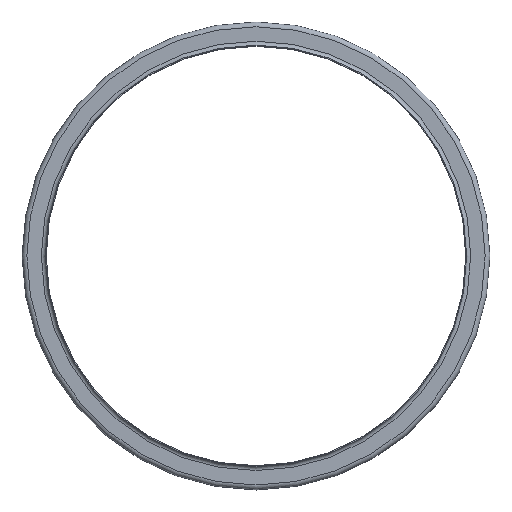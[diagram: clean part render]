
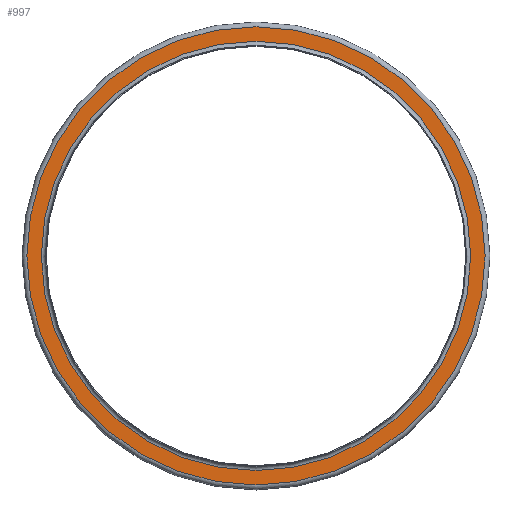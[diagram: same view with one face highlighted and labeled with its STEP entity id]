
A CAD part, top view. The second image highlights one B-rep face of the part: STEP entity #997.
In plain terms, the highlighted planar face has unit normal (0, 0, 1).
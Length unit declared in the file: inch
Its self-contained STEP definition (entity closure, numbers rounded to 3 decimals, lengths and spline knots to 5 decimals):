
#95=FACE_BOUND('',#269,.T.);
#162=FACE_OUTER_BOUND('',#268,.T.);
#268=EDGE_LOOP('',(#769));
#269=EDGE_LOOP('',(#770));
#382=CIRCLE('',#1186,12.274);
#383=CIRCLE('',#1188,13.101);
#463=VERTEX_POINT('',#1810);
#464=VERTEX_POINT('',#1814);
#568=EDGE_CURVE('',#463,#463,#382,.T.);
#569=EDGE_CURVE('',#464,#464,#383,.T.);
#769=ORIENTED_EDGE('',*,*,#569,.F.);
#770=ORIENTED_EDGE('',*,*,#568,.T.);
#851=PLANE('',#1187);
#997=ADVANCED_FACE('',(#162,#95),#851,.T.);
#1186=AXIS2_PLACEMENT_3D('',#1812,#1522,#1523);
#1187=AXIS2_PLACEMENT_3D('',#1813,#1524,#1525);
#1188=AXIS2_PLACEMENT_3D('',#1815,#1526,#1527);
#1522=DIRECTION('center_axis',(0.,0.,-1.));
#1523=DIRECTION('ref_axis',(1.,0.,0.));
#1524=DIRECTION('center_axis',(0.,0.,1.));
#1525=DIRECTION('ref_axis',(1.,0.,0.));
#1526=DIRECTION('center_axis',(0.,0.,-1.));
#1527=DIRECTION('ref_axis',(1.,0.,0.));
#1810=CARTESIAN_POINT('',(12.274,0.,-0.226));
#1812=CARTESIAN_POINT('Origin',(0.,0.,-0.226));
#1813=CARTESIAN_POINT('Origin',(0.,13.101,-0.226));
#1814=CARTESIAN_POINT('',(13.101,0.,-0.226));
#1815=CARTESIAN_POINT('Origin',(0.,0.,-0.226));
